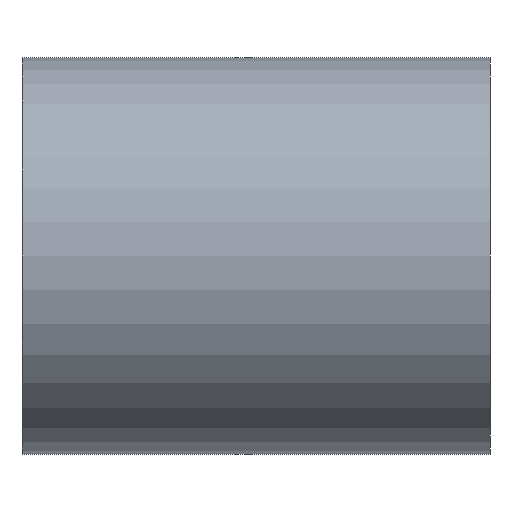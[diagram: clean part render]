
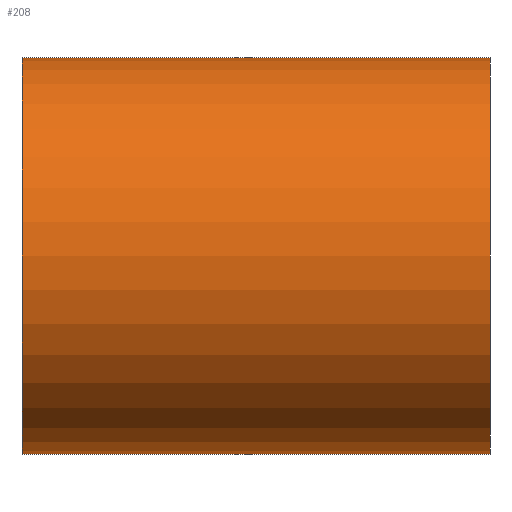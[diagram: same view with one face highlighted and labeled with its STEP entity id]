
A CAD part, front view. The second image highlights one B-rep face of the part: STEP entity #208.
In plain terms, the highlighted cylindrical face has radius 15.25 mm (diameter 30.5 mm), a partial arc.
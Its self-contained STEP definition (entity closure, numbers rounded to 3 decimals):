
#7 = AXIS2_PLACEMENT_3D ( 'NONE', #38, #260, #209 ) ;
#15 = VERTEX_POINT ( 'NONE', #121 ) ;
#21 = DIRECTION ( 'NONE',  ( 0., 0., 1. ) ) ;
#22 = AXIS2_PLACEMENT_3D ( 'NONE', #164, #160, #187 ) ;
#32 = DIRECTION ( 'NONE',  ( -1., 0., 0. ) ) ;
#35 = VECTOR ( 'NONE', #32, 1000. ) ;
#38 = CARTESIAN_POINT ( 'NONE',  ( 18., 0., 0. ) ) ;
#48 = EDGE_CURVE ( 'NONE', #206, #240, #195, .T. ) ;
#49 = DIRECTION ( 'NONE',  ( -1., 0., 0. ) ) ;
#86 = ORIENTED_EDGE ( 'NONE', *, *, #261, .F. ) ;
#87 = CARTESIAN_POINT ( 'NONE',  ( -4.799, 0., 15.25 ) ) ;
#100 = AXIS2_PLACEMENT_3D ( 'NONE', #190, #49, #21 ) ;
#107 = CARTESIAN_POINT ( 'NONE',  ( -18., 0., 15.25 ) ) ;
#121 = CARTESIAN_POINT ( 'NONE',  ( -18., 0., -15.25 ) ) ;
#123 = VERTEX_POINT ( 'NONE', #107 ) ;
#126 = ORIENTED_EDGE ( 'NONE', *, *, #48, .T. ) ;
#138 = VECTOR ( 'NONE', #145, 1000. ) ;
#145 = DIRECTION ( 'NONE',  ( -1., 0., 0. ) ) ;
#146 = ORIENTED_EDGE ( 'NONE', *, *, #189, .F. ) ;
#160 = DIRECTION ( 'NONE',  ( -1., 0., 0. ) ) ;
#164 = CARTESIAN_POINT ( 'NONE',  ( -18., 0., 0. ) ) ;
#181 = ORIENTED_EDGE ( 'NONE', *, *, #333, .T. ) ;
#187 = DIRECTION ( 'NONE',  ( 0., 0., 1. ) ) ;
#189 = EDGE_CURVE ( 'NONE', #15, #123, #225, .T. ) ;
#190 = CARTESIAN_POINT ( 'NONE',  ( -4.799, 0., 0. ) ) ;
#195 = CIRCLE ( 'NONE', #7, 15.25 ) ;
#206 = VERTEX_POINT ( 'NONE', #292 ) ;
#208 = ADVANCED_FACE ( 'NONE', ( #346 ), #251, .T. ) ;
#209 = DIRECTION ( 'NONE',  ( 0., 0., 1. ) ) ;
#224 = CARTESIAN_POINT ( 'NONE',  ( 18., 0., 15.25 ) ) ;
#225 = CIRCLE ( 'NONE', #22, 15.25 ) ;
#240 = VERTEX_POINT ( 'NONE', #224 ) ;
#251 = CYLINDRICAL_SURFACE ( 'NONE', #100, 15.25 ) ;
#260 = DIRECTION ( 'NONE',  ( -1., 0., 0. ) ) ;
#261 = EDGE_CURVE ( 'NONE', #206, #15, #280, .T. ) ;
#280 = LINE ( 'NONE', #281, #35 ) ;
#281 = CARTESIAN_POINT ( 'NONE',  ( -4.799, 0., -15.25 ) ) ;
#292 = CARTESIAN_POINT ( 'NONE',  ( 18., 0., -15.25 ) ) ;
#313 = EDGE_LOOP ( 'NONE', ( #86, #126, #181, #146 ) ) ;
#329 = LINE ( 'NONE', #87, #138 ) ;
#333 = EDGE_CURVE ( 'NONE', #240, #123, #329, .T. ) ;
#346 = FACE_OUTER_BOUND ( 'NONE', #313, .T. ) ;
